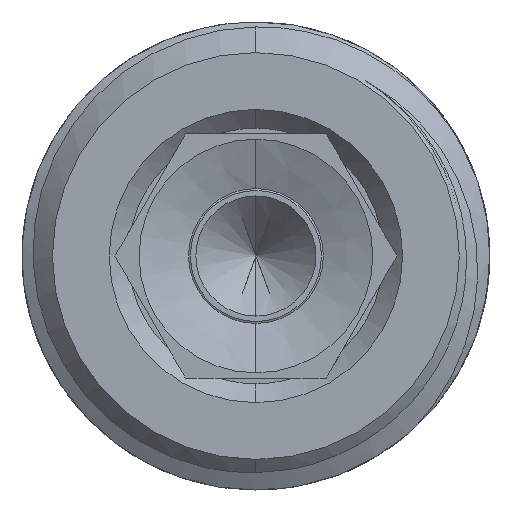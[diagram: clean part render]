
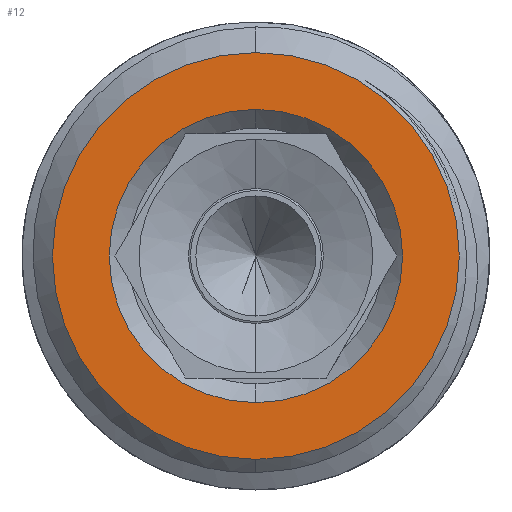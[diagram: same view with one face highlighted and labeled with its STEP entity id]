
A CAD part, left-side view. The second image highlights one B-rep face of the part: STEP entity #12.
In plain terms, the highlighted planar face has unit normal (-1, 0, 0).
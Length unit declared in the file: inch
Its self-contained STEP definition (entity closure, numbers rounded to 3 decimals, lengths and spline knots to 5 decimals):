
#12 = ADVANCED_FACE ( 'NONE', ( #899, #1921 ), #2835, .F. ) ;
#130 = ORIENTED_EDGE ( 'NONE', *, *, #433, .T. ) ;
#136 = VERTEX_POINT ( 'NONE', #3732 ) ;
#160 = CARTESIAN_POINT ( 'NONE',  ( 0., 0., 0. ) ) ;
#214 = CIRCLE ( 'NONE', #987, 0.21502 ) ;
#360 = EDGE_CURVE ( 'NONE', #1658, #410, #643, .T. ) ;
#392 = DIRECTION ( 'NONE',  ( -1., 0., 0. ) ) ;
#398 = DIRECTION ( 'NONE',  ( -1., 0., 0. ) ) ;
#410 = VERTEX_POINT ( 'NONE', #4111 ) ;
#413 = CARTESIAN_POINT ( 'NONE',  ( 0., 0., 0. ) ) ;
#433 = EDGE_CURVE ( 'NONE', #136, #2766, #2718, .T. ) ;
#555 = AXIS2_PLACEMENT_3D ( 'NONE', #160, #2420, #827 ) ;
#643 = CIRCLE ( 'NONE', #840, 0.155 ) ;
#719 = ORIENTED_EDGE ( 'NONE', *, *, #3318, .T. ) ;
#804 = ORIENTED_EDGE ( 'NONE', *, *, #360, .F. ) ;
#827 = DIRECTION ( 'NONE',  ( 0., 0., 1. ) ) ;
#840 = AXIS2_PLACEMENT_3D ( 'NONE', #1221, #1200, #1878 ) ;
#899 = FACE_BOUND ( 'NONE', #2991, .T. ) ;
#942 = DIRECTION ( 'NONE',  ( 0., 0., -1. ) ) ;
#987 = AXIS2_PLACEMENT_3D ( 'NONE', #413, #392, #1015 ) ;
#1015 = DIRECTION ( 'NONE',  ( 0., 0., -1. ) ) ;
#1177 = EDGE_CURVE ( 'NONE', #410, #1658, #2348, .T. ) ;
#1200 = DIRECTION ( 'NONE',  ( -1., 0., 0. ) ) ;
#1221 = CARTESIAN_POINT ( 'NONE',  ( 0., 0., 0. ) ) ;
#1658 = VERTEX_POINT ( 'NONE', #3693 ) ;
#1748 = ORIENTED_EDGE ( 'NONE', *, *, #1177, .F. ) ;
#1878 = DIRECTION ( 'NONE',  ( 0., 0., 1. ) ) ;
#1921 = FACE_OUTER_BOUND ( 'NONE', #3255, .T. ) ;
#1992 = AXIS2_PLACEMENT_3D ( 'NONE', #3884, #398, #4029 ) ;
#2348 = CIRCLE ( 'NONE', #555, 0.155 ) ;
#2420 = DIRECTION ( 'NONE',  ( -1., 0., 0. ) ) ;
#2718 = CIRCLE ( 'NONE', #1992, 0.21502 ) ;
#2766 = VERTEX_POINT ( 'NONE', #4108 ) ;
#2835 = PLANE ( 'NONE',  #3379 ) ;
#2856 = CARTESIAN_POINT ( 'NONE',  ( 0., 0., 0. ) ) ;
#2991 = EDGE_LOOP ( 'NONE', ( #1748, #804 ) ) ;
#3255 = EDGE_LOOP ( 'NONE', ( #719, #130 ) ) ;
#3318 = EDGE_CURVE ( 'NONE', #2766, #136, #214, .T. ) ;
#3379 = AXIS2_PLACEMENT_3D ( 'NONE', #2856, #3812, #942 ) ;
#3693 = CARTESIAN_POINT ( 'NONE',  ( 0., 0., -0.155 ) ) ;
#3732 = CARTESIAN_POINT ( 'NONE',  ( 0., 0., 0.21502 ) ) ;
#3812 = DIRECTION ( 'NONE',  ( 1., 0., 0. ) ) ;
#3884 = CARTESIAN_POINT ( 'NONE',  ( 0., 0., 0. ) ) ;
#4029 = DIRECTION ( 'NONE',  ( 0., 0., -1. ) ) ;
#4108 = CARTESIAN_POINT ( 'NONE',  ( 0., 0., -0.21502 ) ) ;
#4111 = CARTESIAN_POINT ( 'NONE',  ( 0., 0., 0.155 ) ) ;
